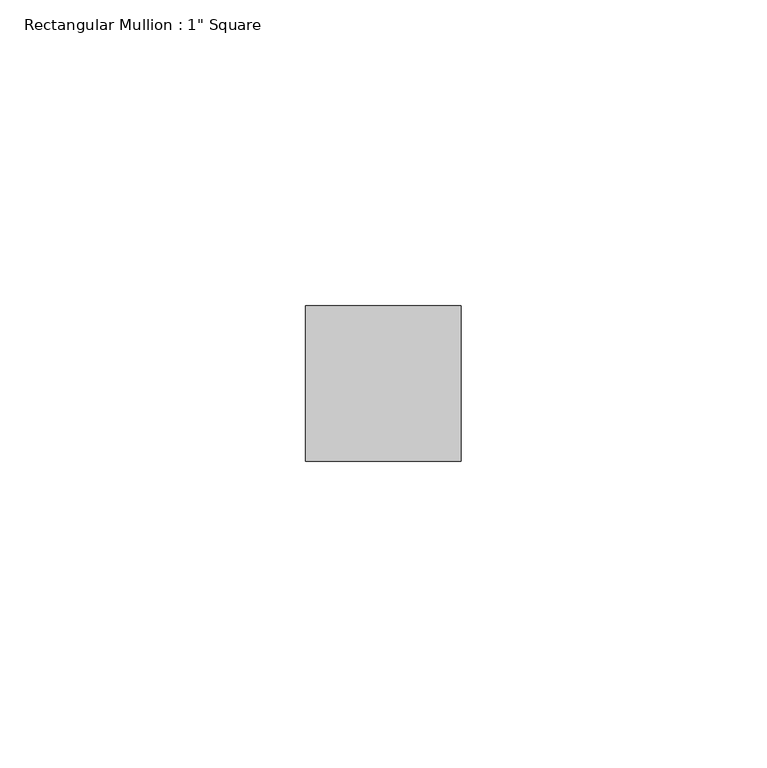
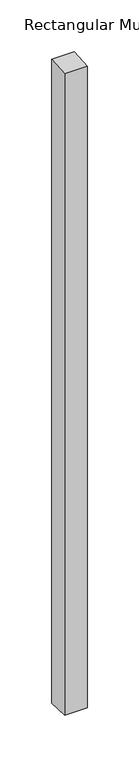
"""IFC4 building model written with IfcOpenShell, lengths in millimetres: member geometry."""

from ifc_helpers import new_model, si_unit, origin, place, context, project, spatial, faceted_brep, source, transform, mapped, element, save


def member_5ef621be(model_context):
    return source(origin(), model_context, "Body", "Brep", [
        faceted_brep([(-25.4, 12.7, 1.0152813), (0.0, 12.7, 1.0617729), (0.0, 12.7, -762.7479504), (-25.4, 12.7, -762.7152), (-25.4, -12.7, -1.1082646), (-25.4, -12.7, -761.2192993), (0.0, -12.7, -1.0617729), (0.0, -12.7, -761.2520496)], [[[0, 1, 2, 3]], [[4, 0, 3, 5]], [[6, 4, 5, 7]], [[1, 6, 7, 2]], [[1, 0, 4, 6]], [[2, 7, 5, 3]]]),
    ])


if __name__ == "__main__":
    model = new_model("IFC4")
    model_context = context("Model", 3, world=origin())
    ifc_project = project(units=[si_unit("LENGTHUNIT", "METRE", prefix="MILLI")], contexts=[model_context])
    site = spatial("IfcSite", under=ifc_project)
    building = spatial("IfcBuilding", under=site)
    placement = place(None, origin())
    member_shape = member_5ef621be(model_context)
    element("IfcMember", 1, ObjectType="Rectangular Mullion : 1\" Square", at=placement, inside=building, context=model_context, shape_type="MappedRepresentation", body=[
        mapped(member_shape, transform((0.0, 0.0, 0.0), x_axis=(1.0, 0.0, 0.0), y_axis=(0.0, 1.0, 0.0), z_axis=(0.0, 0.0, 1.0))),
    ])
    save(model, "model.ifc")
